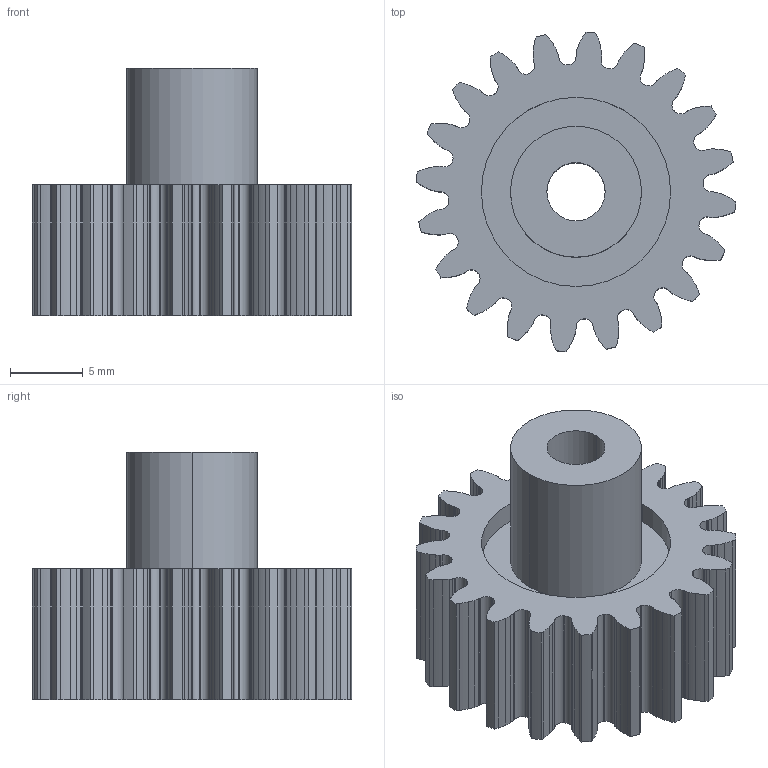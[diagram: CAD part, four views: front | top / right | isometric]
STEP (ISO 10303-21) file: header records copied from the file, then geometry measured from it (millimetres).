
FILE_DESCRIPTION (( 'STEP AP203' ), '1' );
FILE_NAME ('P360GM_ST_100_020_00_040_R_2.STEP', '2024-07-01T06:53:02', ( '' ), ( '' ), 'SwSTEP 2.0', 'SolidWorks 2021', '' );
FILE_SCHEMA (( 'CONFIG_CONTROL_DESIGN' ));
Length unit declared in the file: metre
Products named in the file (3): P360GM_ST_100_020_00_040_R_2.stp; P360GM_ST_100_020_00_040_R_2; 2024_03_15_08_17_18_0643.stp
Assembly tree (2 placements, depth 3):
  P360GM_ST_100_020_00_040_R_2
    P360GM_ST_100_020_00_040_R_2.stp
      2024_03_15_08_17_18_0643.stp
Bounding box: 21.96 x 21.96 x 17 mm (x, y, z)
Volume: 2868.9 mm3; surface area: 2343.2 mm2
Topology: 1 solids, 1 shells, 336 faces, 990 edges, 660 vertices
Faces by surface type: cylinder 290, plane 46
Entity records: 11847 total; most frequent: DIRECTION 2254, CARTESIAN_POINT 1992, ORIENTED_EDGE 1980, EDGE_CURVE 990, AXIS2_PLACEMENT_3D 922, VERTEX_POINT 660, CIRCLE 580, LINE 410
